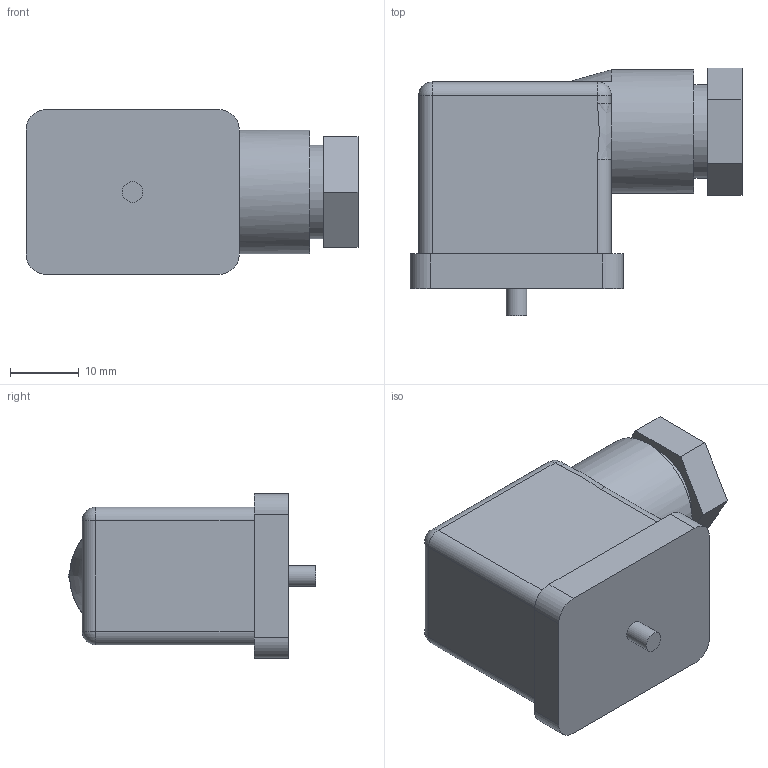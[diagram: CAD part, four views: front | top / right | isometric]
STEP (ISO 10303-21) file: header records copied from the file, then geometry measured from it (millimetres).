
FILE_DESCRIPTION( ( 'STEP AP214' ), '1' );
FILE_NAME( 'p:/temp/worker_192/temp/exporttempdir_4916_146_Tc8gP/format_0/305.11.00.stp', '2021-02-05T12:19:36', ( 'License CC BY-ND 4.0' ), ( 'CADENAS' ), ' ', 'PARTsolutions', ' ' );
FILE_SCHEMA( ( 'AUTOMOTIVE_DESIGN { 1 0 10303 214 1 1 1 1 }' ) );
Length unit declared in the file: millimetre
Products named in the file (1): _305.11.00
Bounding box: 48.25 x 36.04 x 24 mm (x, y, z)
Volume: 20399.6 mm3; surface area: 6118.7 mm2
Topology: 1 solids, 1 shells, 51 faces, 121 edges, 73 vertices
Faces by surface type: plane 25, cylinder 19, sphere 4, bspline 2, cone 1
Full cylindrical faces by diameter (mm): 3 x1, 10.5 x1, 13.6 x1, 18 x1
Entity records: 2132 total; most frequent: CARTESIAN_POINT 565, DIRECTION 248, ORIENTED_EDGE 222, EDGE_CURVE 111, AXIS2_PLACEMENT_3D 92, VERTEX_POINT 71, LINE 64, VECTOR 64
